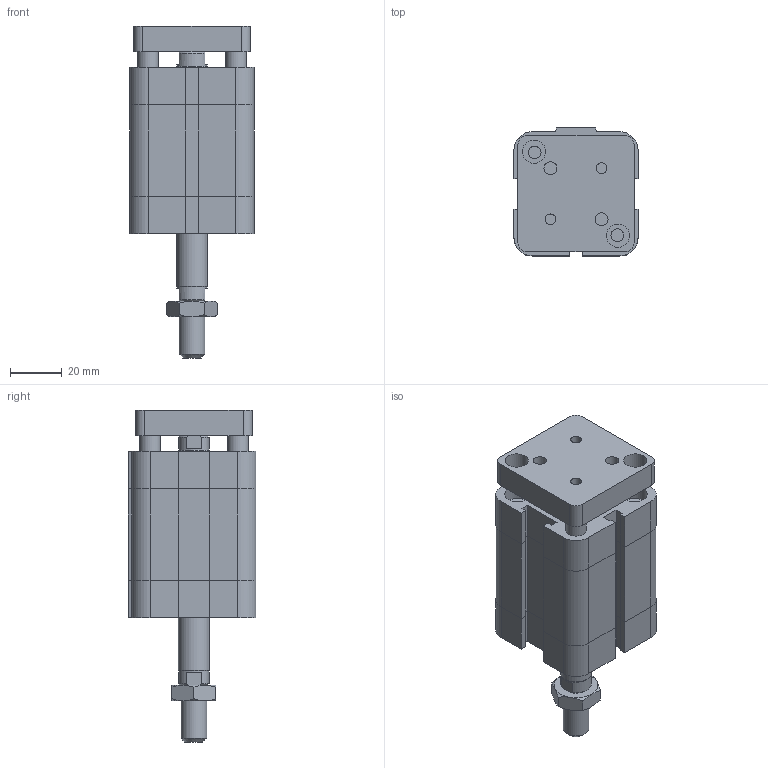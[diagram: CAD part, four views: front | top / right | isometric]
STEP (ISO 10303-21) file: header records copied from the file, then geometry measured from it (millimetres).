
FILE_DESCRIPTION((''),'2;1');
FILE_NAME('I:\Area Tecnica\Disegni\VARIE-3D\Componenti\EUROPE\15##_###_####_09_#\1581_32_0020_09_1.iam.stp','2009-04-20T15:44:09',(''),(''),'Autodesk Inventor 2009','Autodesk Inventor 2009','');
FILE_SCHEMA(('AUTOMOTIVE_DESIGN { 1 0 10303 214 1 1 1 1 }'));
Length unit declared in the file: millimetre
Products named in the file (4): 1581_32_0020_09_1; 1581_32_0020_08_1_C; 1561_32_0020_09_1_SA; DBFM10
Assembly tree (3 placements, depth 2):
  1581_32_0020_09_1
    1581_32_0020_08_1_C
    1561_32_0020_09_1_SA
    DBFM10
Bounding box: 48 x 49.5 x 128.5 mm (x, y, z)
Volume: 157375.3 mm3; surface area: 38708.6 mm2
Topology: 3 solids, 3 shells, 209 faces, 470 edges, 287 vertices
Faces by surface type: plane 120, bspline 45, cylinder 23, cone 21
Full cylindrical faces by diameter (mm): 8 x2, 8.8 x1, 10 x1, 11.7 x2, 12 x1
Entity records: 5963 total; most frequent: CARTESIAN_POINT 1453, DIRECTION 838, ORIENTED_EDGE 834, EDGE_CURVE 417, AXIS2_PLACEMENT_3D 282, EDGE_LOOP 282, VECTOR 274, LINE 274
